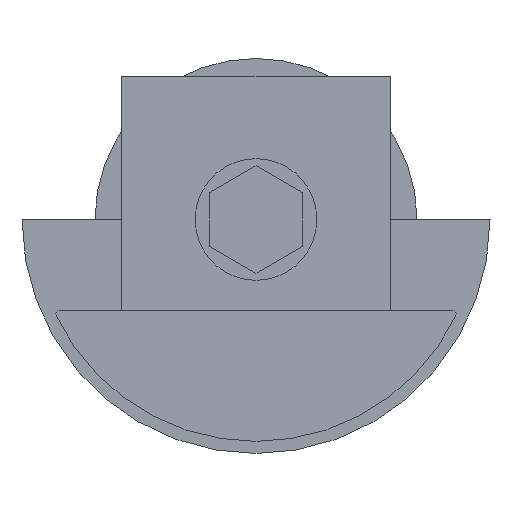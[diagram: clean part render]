
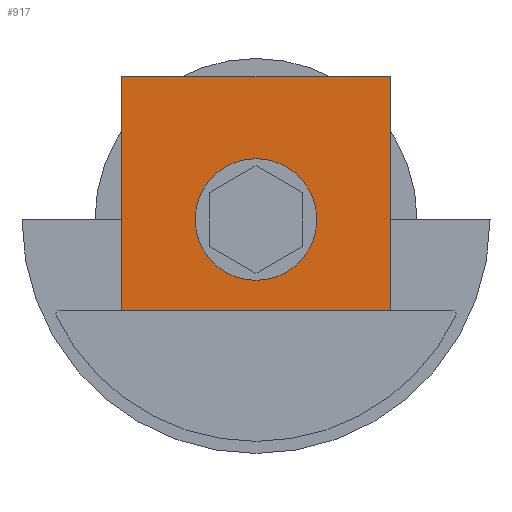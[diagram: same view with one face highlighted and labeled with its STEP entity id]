
A CAD part, left-side view. The second image highlights one B-rep face of the part: STEP entity #917.
In plain terms, the highlighted planar face has unit normal (-1, 0, 0).
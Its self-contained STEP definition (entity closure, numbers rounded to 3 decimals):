
#21 = DIRECTION ( 'NONE',  ( 0., 0., -1. ) ) ;
#36 = VECTOR ( 'NONE', #1465, 1000. ) ;
#74 = CARTESIAN_POINT ( 'NONE',  ( -384., -32.7, 28.7 ) ) ;
#107 = EDGE_CURVE ( 'NONE', #957, #1667, #1376, .T. ) ;
#128 = ORIENTED_EDGE ( 'NONE', *, *, #522, .F. ) ;
#152 = VERTEX_POINT ( 'NONE', #608 ) ;
#170 = AXIS2_PLACEMENT_3D ( 'NONE', #1791, #908, #868 ) ;
#178 = CARTESIAN_POINT ( 'NONE',  ( -384., -13.95, 52.7 ) ) ;
#218 = DIRECTION ( 'NONE',  ( 0., 1., 0. ) ) ;
#220 = ORIENTED_EDGE ( 'NONE', *, *, #107, .F. ) ;
#248 = LINE ( 'NONE', #1192, #1602 ) ;
#266 = ORIENTED_EDGE ( 'NONE', *, *, #1740, .F. ) ;
#347 = ORIENTED_EDGE ( 'NONE', *, *, #694, .T. ) ;
#350 = DIRECTION ( 'NONE',  ( 0., -1., 0. ) ) ;
#373 = LINE ( 'NONE', #1590, #656 ) ;
#429 = AXIS2_PLACEMENT_3D ( 'NONE', #471, #1391, #21 ) ;
#471 = CARTESIAN_POINT ( 'NONE',  ( -384., -32.7, 32.7 ) ) ;
#522 = EDGE_CURVE ( 'NONE', #152, #1179, #1164, .T. ) ;
#608 = CARTESIAN_POINT ( 'NONE',  ( -384., -51.45, 20. ) ) ;
#623 = VERTEX_POINT ( 'NONE', #178 ) ;
#656 = VECTOR ( 'NONE', #1444, 1000. ) ;
#668 = CARTESIAN_POINT ( 'NONE',  ( -384., -60.696, 52.7 ) ) ;
#676 = FACE_OUTER_BOUND ( 'NONE', #1259, .T. ) ;
#694 = EDGE_CURVE ( 'NONE', #1606, #623, #814, .T. ) ;
#757 = CIRCLE ( 'NONE', #429, 4. ) ;
#771 = EDGE_LOOP ( 'NONE', ( #220, #266 ) ) ;
#814 = LINE ( 'NONE', #1871, #1190 ) ;
#832 = FACE_BOUND ( 'NONE', #771, .T. ) ;
#868 = DIRECTION ( 'NONE',  ( 0., 0., -1. ) ) ;
#908 = DIRECTION ( 'NONE',  ( -1., 0., 0. ) ) ;
#917 = ADVANCED_FACE ( 'NONE', ( #832, #676 ), #986, .F. ) ;
#923 = ORIENTED_EDGE ( 'NONE', *, *, #1887, .F. ) ;
#957 = VERTEX_POINT ( 'NONE', #74 ) ;
#986 = PLANE ( 'NONE',  #1632 ) ;
#1164 = LINE ( 'NONE', #1618, #36 ) ;
#1179 = VERTEX_POINT ( 'NONE', #1805 ) ;
#1190 = VECTOR ( 'NONE', #218, 1000. ) ;
#1192 = CARTESIAN_POINT ( 'NONE',  ( -384., -51.45, 52.7 ) ) ;
#1259 = EDGE_LOOP ( 'NONE', ( #347, #923, #128, #1766 ) ) ;
#1275 = DIRECTION ( 'NONE',  ( 1., 0., 0. ) ) ;
#1376 = CIRCLE ( 'NONE', #170, 4. ) ;
#1391 = DIRECTION ( 'NONE',  ( -1., 0., 0. ) ) ;
#1406 = CARTESIAN_POINT ( 'NONE',  ( -384., -32.7, 36.7 ) ) ;
#1444 = DIRECTION ( 'NONE',  ( 0., 0., 1. ) ) ;
#1465 = DIRECTION ( 'NONE',  ( 0., 1., 0. ) ) ;
#1497 = DIRECTION ( 'NONE',  ( 0., 0., -1. ) ) ;
#1523 = EDGE_CURVE ( 'NONE', #1606, #152, #248, .T. ) ;
#1590 = CARTESIAN_POINT ( 'NONE',  ( -384., -13.95, 20. ) ) ;
#1602 = VECTOR ( 'NONE', #1497, 1000. ) ;
#1606 = VERTEX_POINT ( 'NONE', #1801 ) ;
#1618 = CARTESIAN_POINT ( 'NONE',  ( -384., -60.696, 20. ) ) ;
#1632 = AXIS2_PLACEMENT_3D ( 'NONE', #668, #1275, #350 ) ;
#1667 = VERTEX_POINT ( 'NONE', #1406 ) ;
#1740 = EDGE_CURVE ( 'NONE', #1667, #957, #757, .T. ) ;
#1766 = ORIENTED_EDGE ( 'NONE', *, *, #1523, .F. ) ;
#1791 = CARTESIAN_POINT ( 'NONE',  ( -384., -32.7, 32.7 ) ) ;
#1801 = CARTESIAN_POINT ( 'NONE',  ( -384., -51.45, 52.7 ) ) ;
#1805 = CARTESIAN_POINT ( 'NONE',  ( -384., -13.95, 20. ) ) ;
#1871 = CARTESIAN_POINT ( 'NONE',  ( -384., -60.696, 52.7 ) ) ;
#1887 = EDGE_CURVE ( 'NONE', #1179, #623, #373, .T. ) ;
